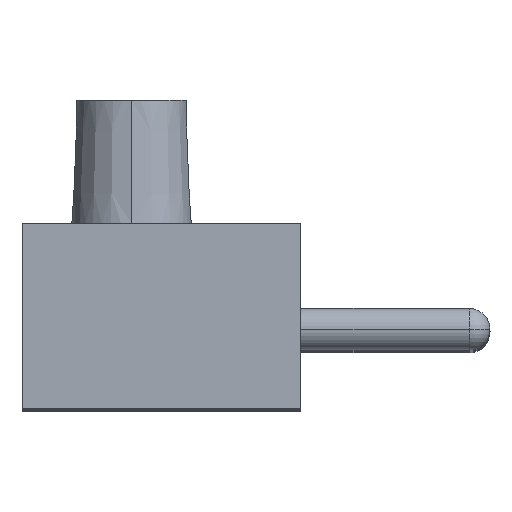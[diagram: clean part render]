
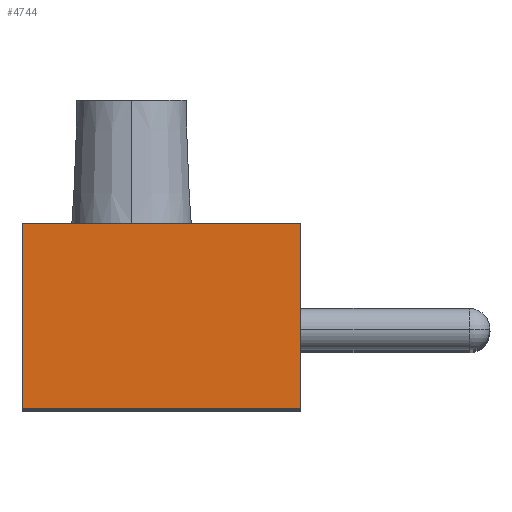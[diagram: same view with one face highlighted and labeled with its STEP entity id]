
A CAD part, top view. The second image highlights one B-rep face of the part: STEP entity #4744.
In plain terms, the highlighted planar face has unit normal (0, 0, 1).
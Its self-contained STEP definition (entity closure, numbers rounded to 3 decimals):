
#2720 = VERTEX_POINT ( 'NONE', #10717 ) ;
#2742 = EDGE_CURVE ( 'NONE', #21154, #2720, #10690, .T. ) ;
#4622 = EDGE_CURVE ( 'NONE', #4623, #21154, #14355, .T. ) ;
#4623 = VERTEX_POINT ( 'NONE', #14350 ) ;
#4736 = VERTEX_POINT ( 'NONE', #14434 ) ;
#4740 = EDGE_CURVE ( 'NONE', #2720, #4736, #14498, .T. ) ;
#4744 = ADVANCED_FACE ( 'NONE', ( #14489 ), #14488, .T. ) ;
#4745 = EDGE_LOOP ( 'NONE', ( #4781, #4784, #4786, #4791 ) ) ;
#4781 = ORIENTED_EDGE ( 'NONE', *, *, #2742, .T. ) ;
#4784 = ORIENTED_EDGE ( 'NONE', *, *, #4740, .T. ) ;
#4786 = ORIENTED_EDGE ( 'NONE', *, *, #4788, .T. ) ;
#4788 = EDGE_CURVE ( 'NONE', #4736, #4623, #14551, .T. ) ;
#4791 = ORIENTED_EDGE ( 'NONE', *, *, #4622, .T. ) ;
#10687 = DIRECTION ( 'NONE',  ( 0., -1., 0. ) ) ;
#10688 = VECTOR ( 'NONE', #10687, 1000. ) ;
#10689 = CARTESIAN_POINT ( 'NONE',  ( -7., 4.65, 0. ) ) ;
#10690 = LINE ( 'NONE', #10689, #10688 ) ;
#10717 = CARTESIAN_POINT ( 'NONE',  ( -7., 0., 0. ) ) ;
#14350 = CARTESIAN_POINT ( 'NONE',  ( 7., 9.3, 0. ) ) ;
#14351 = DIRECTION ( 'NONE',  ( -1., 0., 0. ) ) ;
#14352 = VECTOR ( 'NONE', #14351, 1000. ) ;
#14353 = CARTESIAN_POINT ( 'NONE',  ( -7., 9.3, 0. ) ) ;
#14355 = LINE ( 'NONE', #14353, #14352 ) ;
#14434 = CARTESIAN_POINT ( 'NONE',  ( 7., 0., 0. ) ) ;
#14484 = DIRECTION ( 'NONE',  ( 1., 0., 0. ) ) ;
#14485 = DIRECTION ( 'NONE',  ( 0., 0., 1. ) ) ;
#14486 = CARTESIAN_POINT ( 'NONE',  ( -7., 0., 0. ) ) ;
#14487 = AXIS2_PLACEMENT_3D ( 'NONE', #14486, #14485, #14484 ) ;
#14488 = PLANE ( 'NONE',  #14487 ) ;
#14489 = FACE_OUTER_BOUND ( 'NONE', #4745, .T. ) ;
#14490 = DIRECTION ( 'NONE',  ( 1., 0., 0. ) ) ;
#14491 = VECTOR ( 'NONE', #14490, 1000. ) ;
#14492 = CARTESIAN_POINT ( 'NONE',  ( 0., 0., 0. ) ) ;
#14498 = LINE ( 'NONE', #14492, #14491 ) ;
#14548 = DIRECTION ( 'NONE',  ( 0., 1., 0. ) ) ;
#14549 = VECTOR ( 'NONE', #14548, 1000. ) ;
#14550 = CARTESIAN_POINT ( 'NONE',  ( 7., 4.65, 0. ) ) ;
#14551 = LINE ( 'NONE', #14550, #14549 ) ;
#21154 = VERTEX_POINT ( 'NONE', #30283 ) ;
#30283 = CARTESIAN_POINT ( 'NONE',  ( -7., 9.3, 0. ) ) ;
